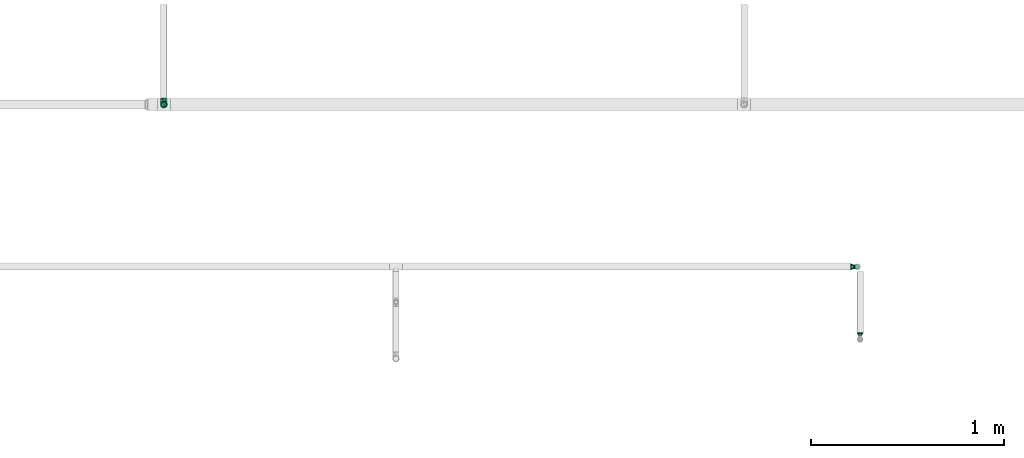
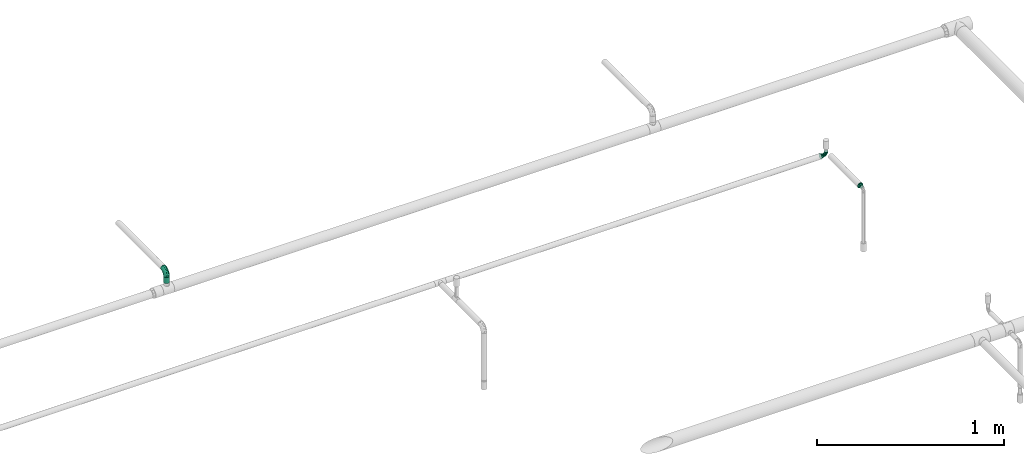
# One storey, part 44 of 51: 4 flow fittings, 1 flow segment.
"""IFC2X3 building model written with IfcOpenShell, lengths in millimetres."""

from ifc_helpers import new_model, entity, si_unit, converted_unit, derived_unit, direction, frame, origin_with_axes, origin_2d_with_axis, place, context, subcontext, project, spatial, hollow_circle, extrude, open_shell, surface_model, source, transform, mapped, type_object, element, save


model = new_model("IFC2X3")

# Units and contexts
model_context = context("Model", 3, precision=0.01, world=frame((0.0, 4.29681676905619e-09, 0.0)), true_north=direction((4.01073788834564e-13, 1.0)))
plan_context = context("Plan", 3, precision=0.01, world=frame((0.0, 4.29681676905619e-09, 0.0)), true_north=direction((4.01073788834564e-13, 1.0)))
body_context = subcontext(model_context, "Body", "Model", "MODEL_VIEW")
ifc_project = project(units=[converted_unit("PLANEANGLEUNIT", "DEGREE", entity("IfcPositiveLengthMeasure", 0.0174532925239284), si_unit("PLANEANGLEUNIT", "RADIAN"), dimensions=[0, 0, 0, 0, 0, 0, 0]), si_unit("AREAUNIT", "SQUARE_METRE"), si_unit("LENGTHUNIT", "METRE", prefix="MILLI"), si_unit("MASSUNIT", "GRAM", prefix="KILO"), si_unit("POWERUNIT", "WATT"), si_unit("PRESSUREUNIT", "PASCAL"), si_unit("FORCEUNIT", "NEWTON", prefix="KILO"), si_unit("ELECTRICVOLTAGEUNIT", "VOLT"), si_unit("ELECTRICCURRENTUNIT", "AMPERE"), si_unit("THERMODYNAMICTEMPERATUREUNIT", "DEGREE_CELSIUS"), si_unit("TIMEUNIT", "SECOND"), si_unit("VOLUMEUNIT", "CUBIC_METRE"), derived_unit("LINEARVELOCITYUNIT", [(si_unit("LENGTHUNIT", "METRE"), 1), (si_unit("TIMEUNIT", "SECOND"), -1)]), derived_unit("VOLUMETRICFLOWRATEUNIT", [(si_unit("VOLUMEUNIT", "CUBIC_METRE"), 1), (si_unit("TIMEUNIT", "SECOND"), -1)]), derived_unit("THERMALTRANSMITTANCEUNIT", [(si_unit("POWERUNIT", "WATT"), 1), (si_unit("THERMODYNAMICTEMPERATUREUNIT", "KELVIN"), -1), (si_unit("AREAUNIT", "SQUARE_METRE"), -1)]), derived_unit("SOUNDPRESSUREUNIT", [(si_unit("PRESSUREUNIT", "PASCAL"), 1)])], contexts=[model_context, plan_context])

# Site, building, storey
site_placement = place(None, frame((0.0, -4.29681676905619e-09, 0.0), z_axis=(0.0, 0.0, 1.0), x_axis=(1.0, 0.0, 0.0)))
site = spatial("IfcSite", under=ifc_project, at=site_placement, Name="ENGM", CompositionType="ELEMENT")
building_placement = place(site_placement, frame((0.0, 4.29681676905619e-09, 0.0), z_axis=(0.0, 0.0, 1.0), x_axis=(1.0, 0.0, 0.0)))
building = spatial("IfcBuilding", under=site, at=building_placement, Name="TH", CompositionType="ELEMENT")
storey_placement = place(building_placement, frame((0.0, 0.0, 210200.0), z_axis=(0.0, 0.0, 1.0), x_axis=(1.0, 0.0, 0.0)))
storey = spatial("IfcBuildingStorey", under=building, at=storey_placement, Name="Nivå F - 0,7 m", CompositionType="ELEMENT", Elevation=210200.0)

# Flow fittings
pipe_fitting_type_1 = type_object("IfcPipeFittingType", Name="magi_pipe_fe_elbow_short_001", PredefinedType="BEND")
shared_shape_1 = source(origin_with_axes(), body_context, "Body", "SurfaceModel", [
    surface_model("IfcShellBasedSurfaceModel", [(-33.8, 8.45, -14.63583), (-33.8, 4.37404, -16.32415), (-33.8, 11.9501, -11.9501), (-33.8, -11.9501, -11.9501), (-33.8, -14.63583, -8.45), (-33.8, -8.45, -14.63583), (-33.8, 0.0, -16.9), (-33.8, -4.37404, -16.32415), (-33.8, -4.37404, 16.32415), (-33.8, 0.0, 16.9), (-33.8, -8.45, 14.63583), (-33.8, 16.32415, -4.37404), (-33.8, 14.63583, -8.45), (-33.8, -16.32415, -4.37404), (-33.8, -16.9, 0.0), (-33.8, -16.32415, 4.37404), (-33.8, 11.9501, 11.9501), (-33.8, 14.63583, 8.45), (-33.8, 16.32415, 4.37404), (-33.8, 4.37404, 16.32415), (-33.8, 8.45, 14.63583), (-33.8, -14.63583, 8.45), (-33.8, -11.9501, 11.9501), (-33.8, 16.9, 0.0), (-11.9501, 33.8, -11.9501), (0.0, 33.8, -16.9), (-4.37404, 33.8, -16.32415), (-8.45, 33.8, -14.63583), (-14.63583, 33.8, -8.45), (-16.32415, 33.8, -4.37404), (14.63583, 33.8, -8.45), (8.45, 33.8, 14.63583), (16.32415, 33.8, -4.37404), (8.45, 33.8, -14.63583), (11.9501, 33.8, -11.9501), (4.37404, 33.8, -16.32415), (16.32415, 33.8, 4.37404), (16.9, 33.8, 0.0), (-11.9501, 33.8, 11.9501), (-16.32415, 33.8, 4.37404), (-14.63583, 33.8, 8.45), (-8.45, 33.8, 14.63583), (-4.37404, 33.8, 16.32415), (11.9501, 33.8, 11.9501), (14.63583, 33.8, 8.45), (0.0, 33.8, 16.9), (4.37404, 33.8, 16.32415), (-16.9, 33.8, 0.0), (-24.79389, -13.12945, 9.48721), (-22.19287, -9.75018, 12.59315), (-24.09897, -14.97035, 0.0), (-14.93934, -10.76256, 8.5297), (-22.46095, -14.75051, 5.27077), (14.75051, 22.46094, 5.27077), (11.9251, 13.23888, 4.33236), (13.04069, 14.39795, 0.0), (7.71387, 13.68847, 11.55891), (9.75018, 22.19287, 12.59315), (4.10169, 13.0571, 14.04018), (-24.84007, -6.39063, 15.2048), (-25.81779, -2.23879, 16.61097), (-23.66549, 2.59054, 16.87119), (-26.50418, 14.06512, 11.08152), (-24.21253, 17.66365, 7.72657), (-29.58514, 15.86957, 7.00283), (-6.17382, -7.5455, 0.0), (-13.23888, -11.9251, 4.33236), (-14.39795, -13.04069, 0.0), (-17.81434, 18.87373, 11.97104), (-6.30846, 29.15138, 15.82987), (-2.31622, 25.28002, 16.85849), (-29.23923, 10.23435, 13.77053), (-1.45439, -2.85688, 7.61475), (-0.28326, 0.34872, 10.09509), (-5.74484, -4.04709, 10.4122), (-4.41137, 11.31918, 16.59407), (-8.39727, 3.10034, 15.7812), (-1.72649, 9.1306, 15.53089), (-17.39909, 24.75344, 7.64977), (-26.19233, 20.0512, 0.0), (-28.14518, 17.29657, 4.25857), (-26.05147, 6.6281, 15.96447), (-5.87354, 16.61944, 16.86968), (-12.51807, 12.51807, 16.48937), (-10.06312, 7.38516, 16.81295), (-3.01882, 3.01882, 13.81718), (-13.0571, -4.10169, 14.04018), (-16.82553, -0.15166, 16.38038), (10.76256, 14.93934, 8.5297), (13.12945, 24.79389, 9.48721), (6.39063, 24.84007, 15.2048), (2.23879, 25.81779, 16.61097), (-13.68847, -7.71387, 11.55891), (14.97035, 24.09897, 0.0), (-7.30894, 22.89991, 16.09489), (-10.67958, 26.17414, 14.008), (-12.78295, 18.26924, 15.06066), (-13.88562, 22.45231, 12.93244), (-18.04944, 15.16501, 14.04434), (-23.11658, 20.08178, 4.02986), (-21.84989, 21.84989, 0.0), (-18.55817, 25.48277, 3.93065), (-13.95142, 26.94732, 11.03289), (-18.57098, 7.23906, 16.59756), (-16.58335, 4.14122, 16.89279), (-17.96666, 11.46709, 15.63151), (-9.84453, 17.54304, 16.18938), (0.15166, 16.82553, 16.38038), (-23.27207, 11.47201, 14.23154), (3.84842, 5.86994, 10.70473), (-8.0212, -7.54413, 7.93275), (1.00345, -2.19508, 4.57414), (5.13203, 3.01004, 5.90201), (5.24161, 1.7543, 2.53265), (8.70457, 7.04947, 3.99182), (-20.0512, 26.19233, 0.0), (8.4852, 8.76699, 7.09296), (-4.55488, -6.72064, 4.90681), (2.05031, -2.05031, 0.0), (7.5455, 6.17382, 0.0), (-26.75399, 2.1369, -16.845), (-14.61995, 24.73803, -11.27736), (-28.45274, -13.45335, -9.81895), (-26.00469, 6.63555, -15.96645), (-23.06726, 20.04573, -4.26202), (-13.80647, -4.26506, -14.17873), (-14.67501, -0.21081, -16.07388), (-6.7902, -0.2828, -13.8478), (-24.53586, 11.08096, -14.13417), (-26.72048, 14.00837, -11.05776), (10.0967, 24.44989, -12.75976), (5.83237, 21.40218, -15.03047), (6.66249, 28.54238, -15.38093), (-20.38182, 15.48705, -12.74596), (12.53268, 21.23441, -9.15363), (12.54494, 15.67504, -5.54878), (9.7522, 12.89279, -8.66343), (-15.65186, 19.64213, -13.01327), (-12.03528, 20.66498, -14.67665), (-15.61907, 15.61906, -14.83879), (-25.56551, -15.26206, 0.0), (-24.65452, -15.12934, -5.50955), (13.45335, 28.45274, -9.81895), (15.12934, 24.65452, -5.50955), (-7.35442, -8.31014, -5.65563), (-15.67504, -12.54494, -5.54878), (-24.44989, -10.0967, -12.75976), (0.16522, 0.41303, -9.71728), (-5.70658, -5.33066, -8.89288), (-5.13869, -2.37198, -11.53565), (-21.23441, -12.53268, -9.15363), (0.71146, 7.93863, -14.09382), (0.21081, 14.67501, -16.07388), (3.49291, 14.42772, -14.76381), (-24.89911, -2.13088, -16.591), (-28.54238, -6.66249, -15.38093), (-18.44386, -7.71663, -13.26957), (2.13088, 24.89911, -16.591), (-28.64342, 17.44413, -2.89318), (1.70017, -1.28722, -5.09504), (-16.57067, 26.81947, -7.36596), (-17.69055, 27.4263, -3.76405), (-12.89279, -9.7522, -8.66343), (-5.96611, 5.96611, -15.95814), (-20.53709, 20.09345, -8.28985), (-2.1369, 26.75399, -16.845), (-6.89872, 24.58781, -16.02578), (-10.60739, 26.53157, -13.98044), (-21.40218, -5.83237, -15.03047), (2.93192, 5.89627, -11.55917), (6.89393, 12.61842, -11.82233), (5.58056, 5.95325, -8.79455), (-3.99512, 18.61798, -16.89635), (8.31014, 7.35442, -5.65563), (-9.1383, 9.86148, -16.89041), (-9.99983, 16.02119, -16.39699), (-16.68576, 9.78031, -16.34199), (-27.01915, 16.61158, -7.12979), (15.26206, 25.56551, 0.0), (-18.61798, 3.99512, -16.89635), (-19.37495, 27.82495, 0.0), (-12.61842, -6.89393, -11.82233), (-18.84705, 19.14018, -10.96545)], [open_shell([[[0, 1, 2]], [[3, 4, 5]], [[6, 7, 5]], [[8, 9, 10]], [[1, 6, 2]], [[11, 12, 2]], [[4, 2, 6]], [[2, 13, 10]], [[5, 4, 6]], [[2, 4, 13]], [[14, 15, 13]], [[11, 2, 16]], [[11, 17, 18]], [[11, 16, 17]], [[19, 20, 16]], [[16, 2, 10]], [[19, 16, 10]], [[21, 22, 15]], [[22, 13, 15]], [[22, 10, 13]], [[10, 9, 19]], [[11, 18, 23]], [[24, 25, 26]], [[24, 26, 27]], [[24, 28, 29]], [[25, 24, 30]], [[31, 32, 24]], [[33, 30, 34]], [[33, 35, 25]], [[25, 30, 33]], [[32, 30, 24]], [[32, 36, 37]], [[38, 24, 29]], [[39, 40, 29]], [[40, 38, 29]], [[38, 41, 42]], [[38, 31, 24]], [[31, 38, 42]], [[36, 43, 44]], [[36, 32, 43]], [[31, 45, 46]], [[32, 31, 43]], [[42, 45, 31]], [[39, 29, 47]], [[22, 48, 49]], [[15, 14, 50]], [[51, 48, 52]], [[53, 54, 55]], [[48, 22, 21]], [[15, 52, 21]], [[56, 57, 58]], [[49, 10, 22]], [[49, 59, 10]], [[9, 60, 61]], [[62, 63, 64]], [[65, 66, 67]], [[57, 43, 31]], [[62, 68, 63]], [[42, 69, 70]], [[20, 71, 16]], [[8, 60, 9]], [[72, 73, 74]], [[75, 76, 77]], [[16, 62, 17]], [[40, 39, 78]], [[79, 23, 80]], [[64, 18, 17]], [[9, 61, 19]], [[19, 81, 20]], [[82, 83, 84]], [[74, 85, 86]], [[59, 86, 87]], [[88, 89, 57]], [[90, 31, 46]], [[44, 53, 36]], [[46, 45, 91]], [[54, 53, 88]], [[44, 89, 53]], [[92, 86, 49]], [[89, 44, 43]], [[10, 59, 8]], [[53, 55, 93]], [[93, 36, 53]], [[66, 52, 67]], [[94, 82, 70]], [[95, 96, 94]], [[97, 98, 96]], [[79, 99, 100]], [[41, 38, 95]], [[101, 100, 99]], [[68, 78, 63]], [[42, 41, 69]], [[23, 18, 80]], [[95, 94, 69]], [[78, 101, 99]], [[38, 102, 95]], [[70, 45, 42]], [[97, 95, 102]], [[15, 50, 52]], [[90, 57, 31]], [[57, 90, 58]], [[81, 19, 61]], [[103, 104, 84]], [[105, 81, 103]], [[38, 40, 102]], [[106, 96, 83]], [[94, 106, 82]], [[91, 70, 107]], [[71, 62, 16]], [[62, 108, 98]], [[86, 59, 49]], [[67, 52, 50]], [[60, 59, 87]], [[92, 49, 51]], [[86, 85, 76]], [[91, 90, 46]], [[37, 36, 93]], [[107, 77, 58]], [[107, 58, 90]], [[58, 85, 109]], [[110, 74, 92]], [[72, 74, 110]], [[66, 51, 52]], [[72, 111, 112]], [[113, 114, 112]], [[56, 88, 57]], [[52, 48, 21]], [[49, 48, 51]], [[57, 89, 43]], [[53, 89, 88]], [[103, 81, 61]], [[71, 81, 108]], [[18, 64, 80]], [[63, 78, 99]], [[47, 115, 101]], [[101, 115, 100]], [[40, 78, 102]], [[68, 102, 78]], [[97, 96, 95]], [[105, 98, 108]], [[103, 84, 83]], [[107, 70, 82]], [[76, 84, 87]], [[82, 84, 75]], [[70, 91, 45]], [[90, 91, 107]], [[59, 60, 8]], [[61, 60, 87]], [[73, 85, 74]], [[109, 112, 116]], [[103, 61, 104]], [[105, 103, 83]], [[96, 105, 83]], [[81, 105, 108]], [[96, 98, 105]], [[62, 98, 68]], [[61, 87, 104]], [[87, 84, 104]], [[86, 76, 87]], [[77, 76, 85]], [[58, 77, 85]], [[75, 77, 107]], [[82, 75, 107]], [[76, 75, 84]], [[81, 71, 20]], [[62, 71, 108]], [[95, 69, 41]], [[70, 69, 94]], [[62, 64, 17]], [[80, 63, 99]], [[63, 80, 64]], [[80, 99, 79]], [[66, 65, 117]], [[110, 66, 117]], [[112, 114, 116]], [[118, 117, 65]], [[110, 92, 51]], [[112, 111, 113]], [[119, 55, 54]], [[74, 86, 92]], [[58, 109, 56]], [[116, 56, 109]], [[66, 110, 51]], [[72, 110, 117]], [[111, 72, 117]], [[73, 112, 109]], [[117, 118, 111]], [[113, 111, 118]], [[118, 119, 113]], [[114, 119, 54]], [[119, 114, 113]], [[116, 54, 88]], [[54, 116, 114]], [[116, 88, 56]], [[112, 73, 72]], [[85, 73, 109]], [[78, 39, 101]], [[47, 101, 39]], [[102, 68, 97]], [[97, 68, 98]], [[82, 106, 83]], [[94, 96, 106]], [[1, 120, 6]], [[28, 24, 121]], [[3, 122, 4]], [[0, 123, 1]], [[100, 124, 79]], [[125, 126, 127]], [[128, 2, 129]], [[130, 131, 132]], [[128, 129, 133]], [[134, 135, 136]], [[137, 138, 139]], [[128, 0, 2]], [[67, 140, 141]], [[134, 142, 143]], [[141, 13, 4]], [[144, 65, 145]], [[146, 3, 5]], [[147, 148, 149]], [[145, 141, 150]], [[151, 152, 153]], [[154, 7, 6]], [[5, 155, 146]], [[150, 146, 156]], [[155, 5, 7]], [[143, 135, 134]], [[35, 157, 25]], [[23, 79, 158]], [[148, 159, 144]], [[160, 161, 29]], [[145, 162, 144]], [[163, 152, 151]], [[29, 28, 160]], [[121, 164, 160]], [[33, 34, 130]], [[25, 165, 26]], [[26, 165, 166]], [[142, 34, 30]], [[24, 27, 167]], [[124, 161, 164]], [[157, 35, 132]], [[155, 154, 168]], [[123, 0, 128]], [[169, 170, 171]], [[172, 157, 152]], [[26, 166, 27]], [[132, 35, 33]], [[142, 130, 34]], [[168, 154, 126]], [[136, 135, 173]], [[133, 137, 139]], [[2, 12, 129]], [[170, 131, 130]], [[30, 32, 143]], [[172, 174, 175]], [[176, 123, 128]], [[158, 177, 11]], [[135, 55, 119]], [[167, 27, 166]], [[175, 166, 172]], [[137, 167, 138]], [[122, 141, 4]], [[140, 14, 13]], [[32, 37, 178]], [[170, 130, 134]], [[152, 157, 131]], [[165, 157, 172]], [[153, 170, 151]], [[152, 163, 174]], [[168, 125, 156]], [[122, 146, 150]], [[120, 154, 6]], [[179, 174, 126]], [[179, 126, 154]], [[126, 163, 127]], [[162, 145, 150]], [[140, 13, 141]], [[32, 178, 143]], [[55, 143, 178]], [[177, 129, 12]], [[128, 133, 139]], [[176, 128, 139]], [[120, 123, 179]], [[121, 160, 28]], [[161, 100, 180]], [[166, 175, 138]], [[121, 24, 167]], [[161, 47, 29]], [[79, 124, 158]], [[124, 164, 177]], [[161, 124, 100]], [[136, 171, 170]], [[127, 163, 151]], [[147, 171, 159]], [[148, 144, 162]], [[127, 151, 169]], [[127, 181, 125]], [[129, 177, 164]], [[12, 11, 177]], [[159, 65, 144]], [[67, 141, 145]], [[143, 55, 135]], [[135, 119, 173]], [[123, 120, 1]], [[154, 120, 179]], [[157, 165, 25]], [[166, 165, 172]], [[172, 152, 174]], [[176, 139, 175]], [[126, 174, 163]], [[176, 174, 179]], [[174, 176, 175]], [[123, 176, 179]], [[150, 181, 162]], [[127, 149, 181]], [[181, 148, 162]], [[159, 148, 147]], [[171, 136, 173]], [[170, 134, 136]], [[159, 171, 173]], [[171, 147, 169]], [[169, 147, 149]], [[151, 170, 169]], [[164, 182, 129]], [[182, 121, 137]], [[181, 149, 148]], [[169, 149, 127]], [[182, 137, 133]], [[167, 137, 121]], [[166, 138, 167]], [[175, 139, 138]], [[129, 182, 133]], [[121, 182, 164]], [[161, 160, 164]], [[47, 161, 180]], [[177, 158, 124]], [[23, 158, 11]], [[130, 132, 33]], [[157, 132, 131]], [[143, 142, 30]], [[130, 142, 134]], [[154, 155, 7]], [[146, 155, 168]], [[146, 122, 3]], [[141, 122, 150]], [[152, 131, 153]], [[159, 119, 118]], [[67, 145, 65]], [[170, 153, 131]], [[119, 159, 173]], [[159, 118, 65]], [[156, 125, 181]], [[126, 125, 168]], [[150, 156, 181]], [[168, 156, 146]]])]),
])
flow_fitting_1_placement = place(storey_placement, frame((905499.91443, 487040.10129, 2938.32088000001), z_axis=(-1.0, 0.0, 0.0), x_axis=(0.0, 0.0, 1.0)))
element("IfcFlowFitting", 1, at=flow_fitting_1_placement, inside=storey, type_object=pipe_fitting_type_1, Name="magi_pipe_fe_elbow_short_001", context=body_context, shape_type="MappedRepresentation", body=[
    mapped(shared_shape_1, transform((0.0, 0.0, 0.0), scale=1.0)),
])
pipe_fitting_type_2 = type_object("IfcPipeFittingType", Name="magi_pipe_fe_reducer_centric_short_NOR", PredefinedType="TRANSITION")
shared_shape_2 = source(origin_with_axes(), body_context, "Body", "SurfaceModel", [
    surface_model("IfcShellBasedSurfaceModel", [(14.4, 4.37404, -16.32415), (14.4, 8.45, -14.63583), (14.4, 11.9501, -11.9501), (14.4, -8.45, -14.63583), (14.4, 16.32415, -4.37404), (14.4, 16.32415, 4.37404), (14.4, 14.63583, -8.45), (14.4, 0.0, -16.9), (14.4, -4.37404, -16.32415), (14.4, -11.9501, -11.9501), (14.4, -16.32415, -4.37404), (14.4, -14.63583, -8.45), (14.4, -16.32415, 4.37404), (14.4, 16.9, 0.0), (14.4, 14.63583, 8.45), (14.4, 11.9501, 11.9501), (14.4, 4.37404, 16.32415), (14.4, 8.45, 14.63583), (14.4, 0.0, 16.9), (14.4, -14.63583, 8.45), (14.4, -16.9, 0.0), (14.4, -8.45, 14.63583), (14.4, -11.9501, 11.9501), (14.4, -4.37404, 16.32415), (12.4, 4.37404, 16.32415), (12.4, -14.63583, 8.45), (12.4, 0.0, 16.9), (12.4, 16.32415, 4.37404), (12.4, 8.45, 14.63583), (12.4, 11.9501, 11.9501), (12.4, 14.63583, 8.45), (12.4, -8.45, 14.63583), (12.4, -11.9501, 11.9501), (12.4, -4.37404, 16.32415), (12.4, -16.32415, 4.37404), (12.4, -16.32415, -4.37404), (12.4, -16.9, 0.0), (12.4, -8.45, -14.63583), (12.4, 16.32415, -4.37404), (12.4, 11.9501, -11.9501), (12.4, 14.63583, -8.45), (12.4, 8.45, -14.63583), (12.4, 4.37404, -16.32415), (12.4, 0.0, -16.9), (12.4, -11.9501, -11.9501), (12.4, -14.63583, -8.45), (12.4, -4.37404, -16.32415), (12.4, 16.9, 0.0), (-2.0, 10.33541, 2.76936), (-2.0, 0.0, 10.7), (-2.0, 2.76936, 10.33541), (-2.0, 7.56604, 7.56604), (-2.0, 5.35, 9.26647), (-2.0, 9.26647, 5.35), (-2.0, -9.26647, 5.35), (-2.0, -2.76936, 10.33541), (-2.0, -7.56604, 7.56604), (-2.0, -5.35, 9.26647), (-2.0, -10.33541, 2.76936), (-2.0, -10.33541, -2.76936), (-2.0, -10.7, 0.0), (-2.0, 10.33541, -2.76936), (-2.0, 7.56604, -7.56604), (-2.0, 9.26647, -5.35), (-2.0, 5.35, -9.26647), (-2.0, -5.35, -9.26647), (-2.0, 2.76936, -10.33541), (-2.0, -7.56604, -7.56604), (-2.0, -9.26647, -5.35), (-2.0, 0.0, -10.7), (-2.0, -2.76936, -10.33541), (-2.0, 10.7, 0.0), (0.0, 5.35, -9.26647), (0.0, 0.0, -10.7), (0.0, 2.76936, -10.33541), (0.0, 10.33541, -2.76936), (0.0, 7.56604, -7.56604), (0.0, -5.35, -9.26647), (0.0, 9.26647, -5.35), (0.0, -9.26647, 5.35), (0.0, -2.76936, -10.33541), (0.0, -7.56604, -7.56604), (0.0, -10.33541, -2.76936), (0.0, -9.26647, -5.35), (0.0, 10.33541, 2.76936), (0.0, 10.7, 0.0), (0.0, 9.26647, 5.35), (0.0, 7.56604, 7.56604), (0.0, 2.76936, 10.33541), (0.0, 0.0, 10.7), (0.0, 5.35, 9.26647), (0.0, -10.33541, 2.76936), (0.0, -10.7, 0.0), (0.0, -7.56604, 7.56604), (0.0, -2.76936, 10.33541), (0.0, -5.35, 9.26647), (0.0, -9.3625, -2.31662), (12.4, -14.42505, -5.97505), (12.4, -15.66253, -2.98753), (0.0, 6.6875, -6.94985), (12.4, 8.96258, -13.18758), (0.0, -6.6875, -6.94985), (12.4, -8.96258, -13.18758), (0.0, 9.3625, -2.31662), (12.4, 15.66253, -2.98753), (12.4, 14.42505, -5.97505), (12.4, -5.97505, -14.42505), (12.4, 5.97505, -14.42505), (0.0, 2.675, -9.26647), (12.4, 13.18758, -8.96258), (0.0, -2.675, -9.26647), (12.4, -13.18758, -8.96258), (0.0, -8.025, -4.63324), (12.4, 2.98753, -15.66253), (0.0, 0.0, -9.26647), (12.4, -2.98753, -15.66253), (0.0, 8.025, -4.63324), (0.0, 9.3625, 2.31662), (12.4, 14.42505, 5.97505), (12.4, 15.66253, 2.98753), (0.0, -6.6875, 6.94985), (12.4, -8.96258, 13.18758), (0.0, 6.6875, 6.94985), (12.4, 8.96258, 13.18758), (0.0, -9.3625, 2.31662), (12.4, -15.66253, 2.98753), (12.4, -14.42505, 5.97505), (12.4, 5.97505, 14.42505), (12.4, -5.97505, 14.42505), (0.0, -2.675, 9.26647), (12.4, -13.18758, 8.96258), (0.0, 2.675, 9.26647), (12.4, 13.18758, 8.96258), (0.0, 8.025, 4.63324), (12.4, -2.98753, 15.66253), (0.0, 0.0, 9.26647), (12.4, 2.98753, 15.66253), (0.0, -8.025, 4.63324)], [open_shell([[[0, 1, 2]], [[3, 0, 2]], [[2, 4, 5]], [[4, 2, 6]], [[2, 5, 3]], [[7, 3, 8]], [[7, 0, 3]], [[9, 10, 11]], [[10, 9, 3]], [[3, 12, 10]], [[5, 4, 13]], [[5, 14, 15]], [[5, 15, 16]], [[16, 12, 3]], [[16, 15, 17]], [[12, 16, 18]], [[18, 19, 12]], [[20, 10, 12]], [[19, 21, 22]], [[19, 18, 21]], [[21, 18, 23]], [[3, 5, 16]], [[24, 25, 26]], [[27, 24, 28]], [[29, 30, 27]], [[29, 27, 28]], [[25, 24, 27]], [[31, 25, 32]], [[31, 33, 26]], [[26, 25, 31]], [[34, 25, 27]], [[34, 35, 36]], [[34, 27, 37]], [[27, 38, 39]], [[39, 38, 40]], [[39, 41, 42]], [[37, 27, 39]], [[42, 43, 39]], [[35, 44, 45]], [[44, 35, 37]], [[37, 43, 46]], [[35, 34, 37]], [[39, 43, 37]], [[38, 27, 47]], [[35, 10, 36]], [[45, 11, 35]], [[3, 44, 37]], [[45, 44, 9]], [[8, 37, 46]], [[35, 11, 10]], [[10, 20, 36]], [[8, 3, 37]], [[9, 44, 3]], [[9, 11, 45]], [[7, 8, 46]], [[46, 43, 7]], [[42, 0, 43]], [[41, 1, 42]], [[6, 39, 40]], [[41, 39, 2]], [[4, 40, 38]], [[41, 2, 1]], [[1, 0, 42]], [[13, 4, 38]], [[6, 40, 4]], [[6, 2, 39]], [[47, 13, 38]], [[43, 0, 7]], [[27, 5, 47]], [[30, 14, 27]], [[17, 29, 28]], [[30, 29, 15]], [[16, 28, 24]], [[27, 14, 5]], [[5, 13, 47]], [[16, 17, 28]], [[15, 29, 17]], [[15, 14, 30]], [[18, 16, 24]], [[24, 26, 18]], [[33, 23, 26]], [[31, 21, 33]], [[19, 32, 25]], [[31, 32, 22]], [[12, 25, 34]], [[31, 22, 21]], [[21, 23, 33]], [[20, 12, 34]], [[19, 25, 12]], [[19, 22, 32]], [[36, 20, 34]], [[26, 23, 18]], [[48, 49, 50]], [[51, 50, 52]], [[51, 53, 48]], [[51, 48, 50]], [[49, 48, 54]], [[55, 56, 57]], [[56, 55, 54]], [[58, 59, 60]], [[54, 55, 49]], [[58, 54, 59]], [[54, 48, 61]], [[59, 54, 61]], [[62, 61, 63]], [[59, 62, 64]], [[61, 62, 59]], [[65, 64, 66]], [[59, 67, 68]], [[67, 59, 65]], [[65, 69, 70]], [[65, 59, 64]], [[66, 69, 65]], [[61, 48, 71]], [[72, 73, 74]], [[75, 72, 76]], [[77, 72, 75]], [[75, 76, 78]], [[79, 77, 75]], [[73, 77, 80]], [[73, 72, 77]], [[81, 82, 83]], [[82, 81, 77]], [[77, 79, 82]], [[84, 75, 85]], [[84, 86, 87]], [[75, 87, 79]], [[88, 89, 87]], [[88, 87, 90]], [[79, 87, 89]], [[82, 91, 92]], [[79, 91, 82]], [[93, 94, 95]], [[94, 93, 79]], [[89, 94, 79]], [[75, 84, 87]], [[59, 82, 60]], [[68, 83, 59]], [[77, 67, 65]], [[68, 67, 81]], [[80, 65, 70]], [[59, 83, 82]], [[82, 92, 60]], [[80, 77, 65]], [[81, 67, 77]], [[81, 83, 68]], [[73, 80, 70]], [[70, 69, 73]], [[66, 74, 69]], [[64, 72, 66]], [[78, 62, 63]], [[64, 62, 76]], [[75, 63, 61]], [[64, 76, 72]], [[72, 74, 66]], [[85, 75, 61]], [[78, 63, 75]], [[78, 76, 62]], [[71, 85, 61]], [[69, 74, 73]], [[48, 84, 71]], [[53, 86, 48]], [[90, 51, 52]], [[53, 51, 87]], [[88, 52, 50]], [[48, 86, 84]], [[84, 85, 71]], [[88, 90, 52]], [[87, 51, 90]], [[87, 86, 53]], [[89, 88, 50]], [[50, 49, 89]], [[55, 94, 49]], [[57, 95, 55]], [[79, 56, 54]], [[57, 56, 93]], [[91, 54, 58]], [[57, 93, 95]], [[95, 94, 55]], [[92, 91, 58]], [[79, 54, 91]], [[79, 93, 56]], [[60, 92, 58]], [[49, 94, 89]], [[29, 26, 39]], [[39, 47, 29]], [[36, 26, 32]], [[36, 44, 43]], [[43, 39, 36]], [[36, 39, 26]], [[92, 95, 77]], [[85, 95, 90]], [[85, 72, 77]], [[85, 77, 95]], [[96, 97, 98]], [[92, 96, 98]], [[99, 100, 72]], [[98, 36, 92]], [[44, 101, 102]], [[101, 77, 102]], [[103, 104, 105]], [[85, 47, 104]], [[77, 106, 102]], [[107, 108, 72]], [[109, 39, 99]], [[106, 77, 110]], [[101, 111, 112]], [[113, 114, 108]], [[100, 99, 39]], [[110, 115, 106]], [[99, 116, 109]], [[100, 107, 72]], [[96, 112, 97]], [[105, 116, 103]], [[85, 104, 103]], [[108, 107, 113]], [[113, 43, 114]], [[116, 105, 109]], [[114, 115, 110]], [[43, 115, 114]], [[111, 101, 44]], [[111, 97, 112]], [[117, 118, 119]], [[85, 117, 119]], [[120, 121, 95]], [[119, 47, 85]], [[29, 122, 123]], [[122, 90, 123]], [[124, 125, 126]], [[92, 36, 125]], [[90, 127, 123]], [[128, 129, 95]], [[130, 32, 120]], [[127, 90, 131]], [[122, 132, 133]], [[134, 135, 129]], [[121, 120, 32]], [[131, 136, 127]], [[120, 137, 130]], [[121, 128, 95]], [[117, 133, 118]], [[126, 137, 124]], [[92, 125, 124]], [[129, 128, 134]], [[134, 26, 135]], [[137, 126, 130]], [[135, 136, 131]], [[26, 136, 135]], [[132, 122, 29]], [[132, 118, 133]]])]),
])
for number, where, z_axis, x_axis, name in (
    (2, (909064.97306, 486201.02538, 2949.56988), (0.0, 0.0, 1.0), (-1.0, 0.0, 0.0), "magi_pipe_fe_reducer_centric_short_NOR"),
    (3, (909100.0, 485846.80826, 2949.59815999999), (0.0, 9.09999996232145e-05, 0.9999999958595), (0.0, 0.9999999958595, -9.09999996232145e-05), "magi_pipe_fe_reducer_centric_short_NOR"),
):
    element("IfcFlowFitting", number, at=place(storey_placement, frame(where, z_axis=z_axis, x_axis=x_axis)), inside=storey, type_object=pipe_fitting_type_2, Name=name, context=body_context, shape_type="MappedRepresentation", body=[
        mapped(shared_shape_2, transform((0.0, 0.0, 0.0), scale=1.0)),
    ])
shared_shape_3 = source(origin_with_axes(), body_context, "Body", "SurfaceModel", [
    surface_model("IfcShellBasedSurfaceModel", [(-21.4, 2.76936, -10.33541), (-21.4, 0.0, -10.7), (-21.4, 7.56604, -7.56604), (-21.4, 5.35, -9.26647), (-21.4, 10.33541, -2.76936), (-21.4, 9.26647, -5.35), (-21.4, -7.56604, 7.56604), (-21.4, -5.35, -9.26647), (-21.4, -5.35, 9.26647), (-21.4, -7.56604, -7.56604), (-21.4, -9.26647, -5.35), (-21.4, -2.76936, -10.33541), (-21.4, -10.33541, -2.76936), (-21.4, -10.7, 0.0), (-21.4, 10.7, 0.0), (-21.4, 10.33541, 2.76936), (-21.4, 9.26647, 5.35), (-21.4, 7.56604, 7.56604), (-21.4, 5.35, 9.26647), (-21.4, 2.76936, 10.33541), (-21.4, -10.33541, 2.76936), (-21.4, -9.26647, 5.35), (-21.4, -2.76936, 10.33541), (-21.4, 0.0, 10.7), (-7.56604, 21.4, -7.56604), (0.0, 21.4, -10.7), (-2.76936, 21.4, -10.33541), (-5.35, 21.4, -9.26647), (-9.26647, 21.4, -5.35), (-10.33541, 21.4, -2.76936), (10.7, 21.4, 0.0), (5.35, 21.4, -9.26647), (9.26647, 21.4, -5.35), (7.56604, 21.4, -7.56604), (2.76936, 21.4, -10.33541), (10.33541, 21.4, -2.76936), (-10.33541, 21.4, 2.76936), (5.35, 21.4, 9.26647), (-7.56604, 21.4, 7.56604), (-9.26647, 21.4, 5.35), (-5.35, 21.4, 9.26647), (-2.76936, 21.4, 10.33541), (9.26647, 21.4, 5.35), (10.33541, 21.4, 2.76936), (7.56604, 21.4, 7.56604), (0.0, 21.4, 10.7), (2.76936, 21.4, 10.33541), (-10.7, 21.4, 0.0), (-17.99408, -9.78739, 0.0), (-9.96908, -7.6371, 0.0), (-9.09404, -6.9243, 4.95785), (-14.48689, -7.04149, 7.24979), (5.63065, 8.24892, 6.28438), (2.06258, 3.09852, 6.68299), (3.46206, 2.41265, 0.0), (0.98571, 10.3211, 10.08431), (-14.58817, -8.87478, 0.0), (5.00363, 14.04705, 8.8538), (-11.43216, -3.30045, 9.33143), (7.6371, 9.96908, 0.0), (8.87478, 14.58817, 0.0), (-7.84024, 13.84213, 8.94205), (-3.62699, 16.02976, 10.31804), (-15.33449, 3.33478, 10.44017), (-7.99137, -0.64527, 9.75219), (-12.26698, 17.61698, 0.0), (-13.83396, 13.83396, 0.0), (-5.22925, -4.43288, 5.66596), (6.39942, 5.35, 0.0), (-15.15468, 10.16047, 6.44408), (-10.16467, 10.01422, 9.23503), (9.78739, 17.99408, 0.0), (-7.22951, 3.98894, 10.64848), (-2.16379, -1.00373, 6.95774), (0.52471, -0.52471, 0.0), (-2.94157, 6.97816, 10.50675), (-17.61698, 12.26698, 0.0), (-2.41265, -3.46206, 0.0), (-5.35, -6.39942, 0.0), (-8.83498, -0.07405, -10.11828), (-2.16379, -1.00373, -6.95774), (-5.8406, -4.06158, -6.57779), (-7.84024, 13.84213, -8.94205), (-15.33449, 3.33478, -10.44017), (-11.43216, -3.30045, -9.33143), (-15.15468, 10.16047, -6.44408), (-7.22951, 3.98894, -10.64848), (-10.16467, 10.01422, -9.23503), (2.06258, 3.09852, -6.68299), (-2.94157, 6.97816, -10.50675), (-14.48689, -7.04149, -7.24979), (5.00363, 14.04705, -8.8538), (-3.62699, 16.02976, -10.31804), (0.98571, 10.3211, -10.08431), (5.63065, 8.24892, -6.28438), (-9.09404, -6.9243, -4.95785)], [open_shell([[[0, 1, 2]], [[3, 0, 2]], [[4, 5, 2]], [[6, 1, 7]], [[1, 8, 2]], [[9, 10, 7]], [[1, 11, 7]], [[12, 13, 10]], [[7, 10, 13]], [[13, 6, 7]], [[4, 2, 14]], [[8, 15, 2]], [[16, 15, 17]], [[8, 18, 15]], [[17, 15, 18]], [[18, 8, 19]], [[20, 21, 13]], [[13, 21, 6]], [[22, 23, 8]], [[6, 8, 1]], [[8, 23, 19]], [[15, 14, 2]], [[24, 25, 26]], [[24, 26, 27]], [[24, 28, 29]], [[24, 29, 25]], [[25, 29, 30]], [[31, 32, 33]], [[31, 34, 25]], [[32, 30, 35]], [[30, 32, 31]], [[25, 30, 31]], [[29, 36, 30]], [[30, 36, 37]], [[38, 36, 39]], [[36, 40, 37]], [[40, 36, 38]], [[41, 37, 40]], [[30, 42, 43]], [[44, 42, 30]], [[37, 45, 46]], [[30, 37, 44]], [[41, 45, 37]], [[29, 47, 36]], [[21, 20, 48]], [[49, 50, 51]], [[52, 53, 54]], [[52, 55, 53]], [[51, 6, 56]], [[6, 21, 56]], [[41, 57, 45]], [[23, 51, 58]], [[51, 22, 8]], [[57, 59, 60]], [[61, 55, 62]], [[63, 58, 64]], [[65, 66, 61]], [[51, 23, 22]], [[23, 58, 19]], [[67, 58, 50]], [[54, 68, 52]], [[63, 17, 18]], [[20, 13, 48]], [[14, 15, 69]], [[16, 17, 63]], [[62, 40, 38]], [[19, 58, 63]], [[16, 69, 15]], [[63, 18, 19]], [[59, 52, 68]], [[60, 44, 37]], [[57, 46, 45]], [[69, 70, 66]], [[52, 59, 57]], [[39, 62, 38]], [[60, 42, 44]], [[37, 57, 60]], [[37, 46, 57]], [[6, 51, 8]], [[43, 71, 30]], [[51, 56, 49]], [[70, 69, 72]], [[73, 74, 53]], [[75, 72, 73]], [[16, 63, 69]], [[47, 65, 36]], [[42, 71, 43]], [[55, 57, 62]], [[52, 57, 55]], [[41, 40, 62]], [[60, 71, 42]], [[36, 61, 39]], [[48, 56, 21]], [[61, 62, 39]], [[62, 57, 41]], [[69, 63, 72]], [[53, 75, 73]], [[69, 66, 76]], [[67, 64, 58]], [[75, 53, 55]], [[67, 77, 73]], [[55, 61, 75]], [[70, 75, 61]], [[50, 49, 78]], [[67, 50, 78]], [[51, 50, 58]], [[77, 74, 73]], [[73, 72, 64]], [[67, 78, 77]], [[73, 64, 67]], [[63, 64, 72]], [[36, 65, 61]], [[75, 70, 72]], [[14, 69, 76]], [[66, 70, 61]], [[53, 74, 54]], [[79, 80, 81]], [[65, 29, 82]], [[3, 2, 83]], [[0, 84, 1]], [[4, 14, 85]], [[10, 48, 12]], [[83, 5, 85]], [[85, 5, 4]], [[86, 85, 87]], [[83, 86, 79]], [[83, 84, 0]], [[48, 13, 12]], [[80, 77, 81]], [[88, 80, 89]], [[10, 9, 56]], [[7, 11, 90]], [[91, 31, 60]], [[9, 7, 90]], [[90, 11, 1]], [[84, 90, 1]], [[9, 90, 56]], [[28, 92, 82]], [[5, 83, 2]], [[85, 14, 76]], [[80, 88, 74]], [[82, 66, 65]], [[93, 82, 92]], [[28, 82, 29]], [[28, 24, 92]], [[24, 27, 92]], [[71, 60, 32]], [[91, 92, 26]], [[56, 48, 10]], [[35, 30, 71]], [[27, 26, 92]], [[94, 88, 93]], [[25, 91, 26]], [[31, 91, 34]], [[83, 0, 3]], [[94, 93, 91]], [[33, 60, 31]], [[89, 93, 88]], [[34, 91, 25]], [[71, 32, 35]], [[92, 91, 93]], [[59, 91, 60]], [[86, 83, 85]], [[95, 78, 49]], [[33, 32, 60]], [[66, 87, 85]], [[94, 59, 68]], [[89, 80, 86]], [[49, 56, 90]], [[94, 54, 88]], [[59, 94, 91]], [[95, 90, 84]], [[87, 89, 86]], [[82, 93, 89]], [[81, 78, 95]], [[90, 95, 49]], [[81, 95, 84]], [[79, 81, 84]], [[82, 87, 66]], [[83, 79, 84]], [[80, 79, 86]], [[77, 80, 74]], [[77, 78, 81]], [[47, 29, 65]], [[76, 66, 85]], [[89, 87, 82]], [[54, 94, 68]], [[54, 74, 88]]])]),
])
flow_fitting_2_placement = place(storey_placement, frame((909086.37306, 486201.02538, 2949.56988), z_axis=(0.0, -1.0, 0.0), x_axis=(1.0, 0.0, 0.0)))
element("IfcFlowFitting", 4, at=flow_fitting_2_placement, inside=storey, type_object=pipe_fitting_type_1, Name="magi_pipe_fe_elbow_short_001", context=body_context, shape_type="MappedRepresentation", body=[
    mapped(shared_shape_3, transform((0.0, 0.0, 0.0), scale=1.0)),
])

# Flow segment
pipe_segment_type = type_object("IfcPipeSegmentType", Name="Stålrør normaltykke", PredefinedType="RIGIDSEGMENT")
shared_shape_4 = source(origin_with_axes(), body_context, "Body", "SweptSolid", [
    extrude(hollow_circle(Radius=16.9, WallThickness=2.0, at=origin_2d_with_axis()), frame((0.0, 0.0, 0.0), z_axis=(1.0, 0.0, 0.0), x_axis=(0.0, 1.0, 0.0)), (0.0, 0.0, 1.0), 39.2),
])
flow_segment_placement = place(storey_placement, frame((905499.91443, 487040.10129, 2865.29996), z_axis=(0.0, -1.0, 0.0), x_axis=(0.0, 0.0, 1.0)))
element("IfcFlowSegment", 5, at=flow_segment_placement, inside=storey, type_object=pipe_segment_type, Name="Stålrør normaltykke", context=body_context, shape_type="MappedRepresentation", body=[
    mapped(shared_shape_4, transform((0.0, 0.0, 0.0), scale=1.0)),
])

save(model, "model.ifc")
